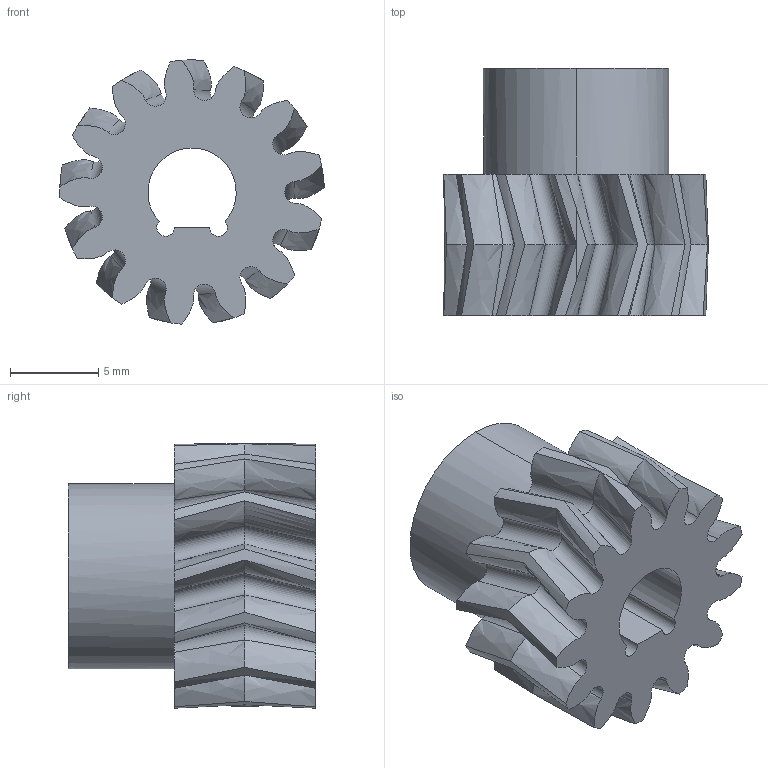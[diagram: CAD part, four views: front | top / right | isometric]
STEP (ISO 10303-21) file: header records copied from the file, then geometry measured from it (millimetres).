
FILE_DESCRIPTION (( 'STEP AP203' ), '1' );
FILE_NAME ('Spur gear (13 teeth).STEP', '2026-01-17T21:10:55', ( '' ), ( '' ), 'SwSTEP 2.0', 'SolidWorks 2026', '' );
FILE_SCHEMA (( 'CONFIG_CONTROL_DESIGN' ));
Length unit declared in the file: millimetre
Products named in the file (1): Spur gear (13 teeth)
Bounding box: 14.99 x 14 x 14.98 mm (x, y, z)
Volume: 1278.9 mm3; surface area: 1308.5 mm2
Topology: 1 solids, 1 shells, 115 faces, 300 edges, 187 vertices
Faces by surface type: bspline 78, cylinder 21, plane 16
Entity records: 16515 total; most frequent: CARTESIAN_POINT 14404, ORIENTED_EDGE 600, EDGE_CURVE 300, DIRECTION 267, VERTEX_POINT 187, AXIS2_PLACEMENT_3D 128, EDGE_LOOP 117, FACE_OUTER_BOUND 115
